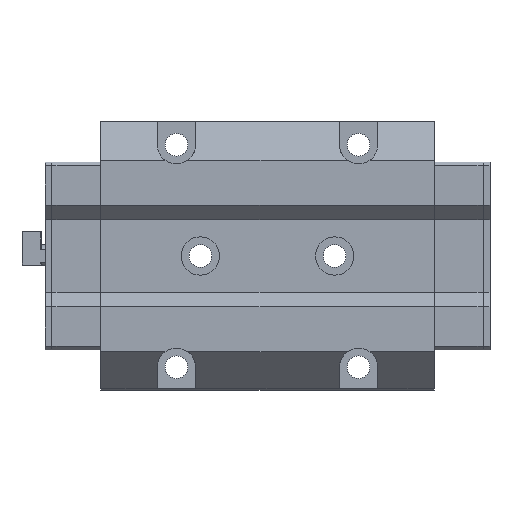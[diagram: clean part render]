
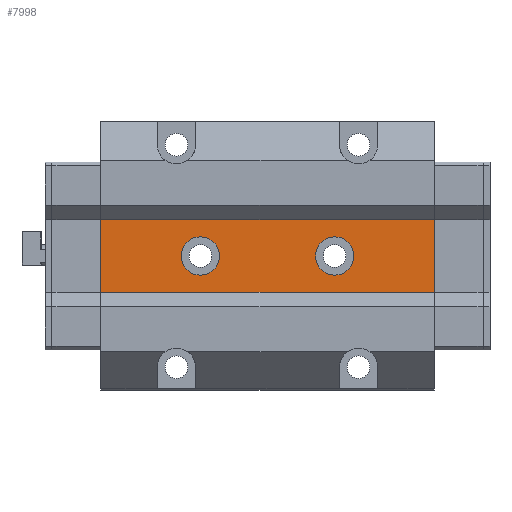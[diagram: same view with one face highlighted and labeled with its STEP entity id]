
A CAD part, front view. The second image highlights one B-rep face of the part: STEP entity #7998.
In plain terms, the highlighted planar face has unit normal (0, -1, 0).
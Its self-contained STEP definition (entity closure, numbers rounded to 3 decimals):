
#125 = VERTEX_POINT ( 'NONE', #4280 ) ;
#469 = DIRECTION ( 'NONE',  ( 0., 1., 0. ) ) ;
#646 = AXIS2_PLACEMENT_3D ( 'NONE', #1725, #5369, #1019 ) ;
#740 = CIRCLE ( 'NONE', #6025, 10. ) ;
#834 = EDGE_CURVE ( 'NONE', #4999, #1593, #4282, .T. ) ;
#869 = LINE ( 'NONE', #6541, #7219 ) ;
#1019 = DIRECTION ( 'NONE',  ( 0., 0., -1. ) ) ;
#1216 = ORIENTED_EDGE ( 'NONE', *, *, #834, .T. ) ;
#1330 = CARTESIAN_POINT ( 'NONE',  ( 115.9, 0., -25.5 ) ) ;
#1593 = VERTEX_POINT ( 'NONE', #8683 ) ;
#1711 = CIRCLE ( 'NONE', #2761, 10. ) ;
#1725 = CARTESIAN_POINT ( 'NONE',  ( 115.9, 0., 25.5 ) ) ;
#1749 = EDGE_CURVE ( 'NONE', #4064, #125, #8118, .T. ) ;
#1811 = PLANE ( 'NONE',  #646 ) ;
#1936 = ORIENTED_EDGE ( 'NONE', *, *, #8323, .F. ) ;
#2190 = CARTESIAN_POINT ( 'NONE',  ( -86.9, 0., -25.5 ) ) ;
#2286 = DIRECTION ( 'NONE',  ( 0., 0., -1. ) ) ;
#2563 = ORIENTED_EDGE ( 'NONE', *, *, #6385, .T. ) ;
#2622 = CARTESIAN_POINT ( 'NONE',  ( -35., 0., -10. ) ) ;
#2761 = AXIS2_PLACEMENT_3D ( 'NONE', #4727, #4775, #2286 ) ;
#2906 = CIRCLE ( 'NONE', #5626, 10. ) ;
#2992 = DIRECTION ( 'NONE',  ( 0., 0., -1. ) ) ;
#3103 = EDGE_LOOP ( 'NONE', ( #1216, #7605 ) ) ;
#3236 = CARTESIAN_POINT ( 'NONE',  ( 86.9, 0., 12.75 ) ) ;
#3239 = VECTOR ( 'NONE', #3852, 1000. ) ;
#3329 = FACE_BOUND ( 'NONE', #3103, .T. ) ;
#3491 = CARTESIAN_POINT ( 'NONE',  ( -35., 0., 0. ) ) ;
#3516 = VERTEX_POINT ( 'NONE', #2190 ) ;
#3776 = CARTESIAN_POINT ( 'NONE',  ( 35., 0., 0. ) ) ;
#3796 = VECTOR ( 'NONE', #7856, 1000. ) ;
#3852 = DIRECTION ( 'NONE',  ( 0., 0., -1. ) ) ;
#3915 = CARTESIAN_POINT ( 'NONE',  ( 35., 0., -10. ) ) ;
#4064 = VERTEX_POINT ( 'NONE', #6888 ) ;
#4214 = DIRECTION ( 'NONE',  ( -1., 0., 0. ) ) ;
#4280 = CARTESIAN_POINT ( 'NONE',  ( 86.9, 0., -25.5 ) ) ;
#4282 = CIRCLE ( 'NONE', #8666, 10. ) ;
#4727 = CARTESIAN_POINT ( 'NONE',  ( 35., 0., 0. ) ) ;
#4775 = DIRECTION ( 'NONE',  ( 0., 1., 0. ) ) ;
#4806 = EDGE_CURVE ( 'NONE', #125, #3516, #4976, .T. ) ;
#4827 = ORIENTED_EDGE ( 'NONE', *, *, #7236, .T. ) ;
#4969 = CARTESIAN_POINT ( 'NONE',  ( 115.9, 0., 25.5 ) ) ;
#4976 = LINE ( 'NONE', #1330, #5978 ) ;
#4999 = VERTEX_POINT ( 'NONE', #3915 ) ;
#5068 = DIRECTION ( 'NONE',  ( 0., 0., -1. ) ) ;
#5130 = DIRECTION ( 'NONE',  ( 0., 1., 0. ) ) ;
#5167 = VERTEX_POINT ( 'NONE', #9265 ) ;
#5217 = EDGE_CURVE ( 'NONE', #5611, #5908, #740, .T. ) ;
#5293 = EDGE_LOOP ( 'NONE', ( #4827, #6775 ) ) ;
#5369 = DIRECTION ( 'NONE',  ( 0., 1., 0. ) ) ;
#5580 = EDGE_LOOP ( 'NONE', ( #5775, #2563, #1936, #9258 ) ) ;
#5611 = VERTEX_POINT ( 'NONE', #8363 ) ;
#5626 = AXIS2_PLACEMENT_3D ( 'NONE', #8772, #5130, #2992 ) ;
#5775 = ORIENTED_EDGE ( 'NONE', *, *, #1749, .F. ) ;
#5835 = DIRECTION ( 'NONE',  ( 0., 0., 1. ) ) ;
#5908 = VERTEX_POINT ( 'NONE', #2622 ) ;
#5978 = VECTOR ( 'NONE', #4214, 1000. ) ;
#6025 = AXIS2_PLACEMENT_3D ( 'NONE', #3491, #469, #6380 ) ;
#6380 = DIRECTION ( 'NONE',  ( 0., 0., -1. ) ) ;
#6385 = EDGE_CURVE ( 'NONE', #4064, #5167, #9269, .T. ) ;
#6541 = CARTESIAN_POINT ( 'NONE',  ( -86.9, 0., 12.75 ) ) ;
#6671 = DIRECTION ( 'NONE',  ( 0., 1., 0. ) ) ;
#6775 = ORIENTED_EDGE ( 'NONE', *, *, #5217, .T. ) ;
#6888 = CARTESIAN_POINT ( 'NONE',  ( 86.9, 0., 25.5 ) ) ;
#7219 = VECTOR ( 'NONE', #5835, 1000. ) ;
#7236 = EDGE_CURVE ( 'NONE', #5908, #5611, #2906, .T. ) ;
#7605 = ORIENTED_EDGE ( 'NONE', *, *, #7782, .T. ) ;
#7782 = EDGE_CURVE ( 'NONE', #1593, #4999, #1711, .T. ) ;
#7856 = DIRECTION ( 'NONE',  ( -1., 0., 0. ) ) ;
#7998 = ADVANCED_FACE ( 'NONE', ( #8346, #3329, #8298 ), #1811, .F. ) ;
#8118 = LINE ( 'NONE', #3236, #3239 ) ;
#8298 = FACE_OUTER_BOUND ( 'NONE', #5580, .T. ) ;
#8323 = EDGE_CURVE ( 'NONE', #3516, #5167, #869, .T. ) ;
#8346 = FACE_BOUND ( 'NONE', #5293, .T. ) ;
#8363 = CARTESIAN_POINT ( 'NONE',  ( -35., 0., 10. ) ) ;
#8666 = AXIS2_PLACEMENT_3D ( 'NONE', #3776, #6671, #5068 ) ;
#8683 = CARTESIAN_POINT ( 'NONE',  ( 35., 0., 10. ) ) ;
#8772 = CARTESIAN_POINT ( 'NONE',  ( -35., 0., 0. ) ) ;
#9258 = ORIENTED_EDGE ( 'NONE', *, *, #4806, .F. ) ;
#9265 = CARTESIAN_POINT ( 'NONE',  ( -86.9, 0., 25.5 ) ) ;
#9269 = LINE ( 'NONE', #4969, #3796 ) ;
